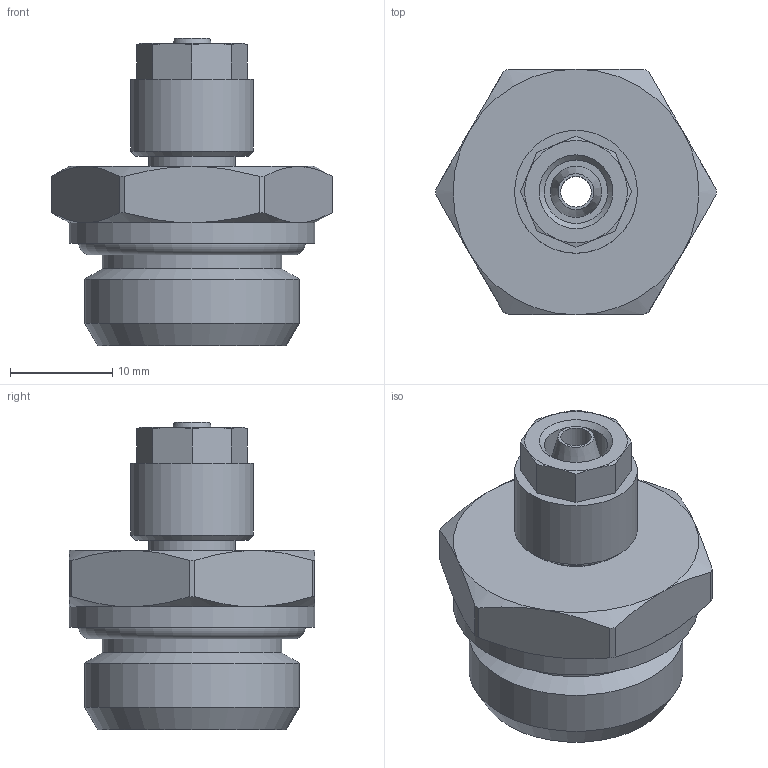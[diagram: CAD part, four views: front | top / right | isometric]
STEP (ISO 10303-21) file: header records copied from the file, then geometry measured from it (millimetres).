
FILE_DESCRIPTION(/* description */ (''),/* implementation_level */ '2;1');
FILE_NAME(/* name */ '10225_301Z_64_12_09.09.15',/* time_stamp */ '2015-09-09T12:20:02+02:00',/* author */ (''),/* organization */ (''),/* preprocessor_version */ 'ST-DEVELOPER v14',/* originating_system */ 'HiCAD 2013 1802.4 Build 509',/* authorisation */ '');
FILE_SCHEMA (('AUTOMOTIVE_DESIGN { 1 0 10303 214 1 1 1 1 }'));
Length unit declared in the file: millimetre
Products named in the file (4): Root; 17005; R10225; OR 17.12X2.62
Assembly tree (3 placements, depth 2):
  Root
    17005
    R10225
    OR 17.12X2.62
Bounding box: 27.4 x 24 x 30 mm (x, y, z)
Volume: 5732.9 mm3; surface area: 4569 mm2
Topology: 3 solids, 3 shells, 77 faces, 172 edges, 105 vertices
Faces by surface type: cone 32, plane 24, cylinder 17, torus 4
Full cylindrical faces by diameter (mm): 3 x1, 4.7 x1, 6.2 x1, 8.5 x1, 8.773 x1, 10 x1, 12 x1, 14 x1, 17.5 x1, 20.955 x1, 24 x1
Entity records: 3357 total; most frequent: DIRECTION 406, CARTESIAN_POINT 311, PRESENTATION_STYLE_ASSIGNMENT 271, COLOUR_RGB 270, DRAUGHTING_PRE_DEFINED_CURVE_FONT 268, CURVE_STYLE 268, OVER_RIDING_STYLED_ITEM 268, ORIENTED_EDGE 268
